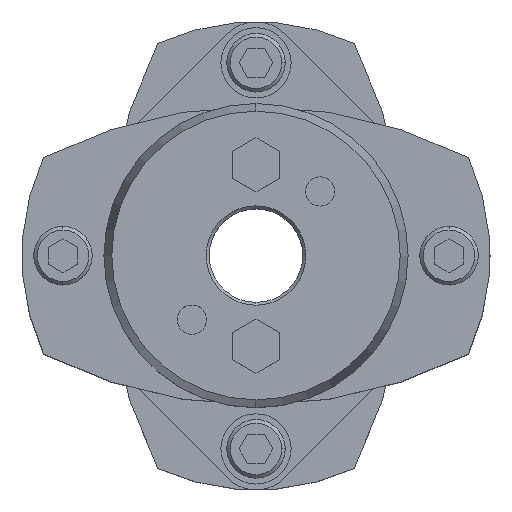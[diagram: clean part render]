
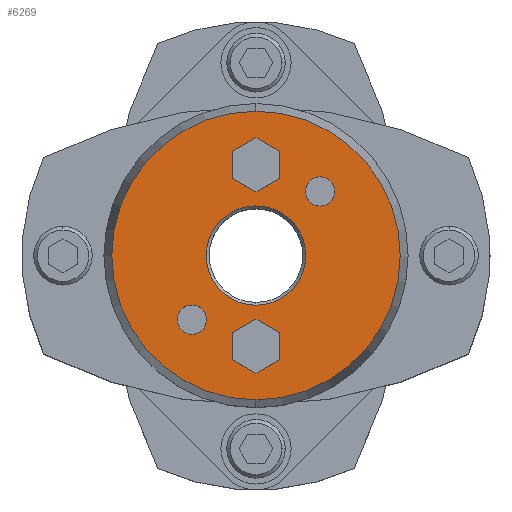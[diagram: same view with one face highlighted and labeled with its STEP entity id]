
A CAD part, top view. The second image highlights one B-rep face of the part: STEP entity #6269.
In plain terms, the highlighted planar face has unit normal (0, 0, 1).
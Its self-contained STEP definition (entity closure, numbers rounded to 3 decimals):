
#1677=CARTESIAN_POINT('',(0.,8.5,45.25));
#1678=VERTEX_POINT('',#1677);
#1694=CARTESIAN_POINT('',(0.,-8.5,45.25));
#1695=VERTEX_POINT('',#1694);
#1702=CARTESIAN_POINT('',(0.,0.,45.25));
#1703=DIRECTION('',(0.0,0.0,1.0));
#1704=DIRECTION('',(0.0,1.0,0.0));
#1705=AXIS2_PLACEMENT_3D('',#1702,#1703,#1704);
#1706=CIRCLE('',#1705,8.5);
#1707=EDGE_CURVE('',#1695,#1678,#1706,.T.);
#1865=CARTESIAN_POINT('',(0.,-24.66,45.25));
#1866=VERTEX_POINT('',#1865);
#1873=CARTESIAN_POINT('',(0.,24.66,45.25));
#1874=VERTEX_POINT('',#1873);
#1875=CARTESIAN_POINT('',(0.,0.,45.25));
#1876=DIRECTION('',(0.0,0.0,-1.0));
#1877=DIRECTION('',(0.0,-1.0,0.0));
#1878=AXIS2_PLACEMENT_3D('',#1875,#1876,#1877);
#1879=CIRCLE('',#1878,24.66);
#1880=EDGE_CURVE('',#1866,#1874,#1879,.T.);
#1975=CARTESIAN_POINT('',(10.96,13.46,45.25));
#1976=VERTEX_POINT('',#1975);
#1992=CARTESIAN_POINT('',(10.96,8.46,45.25));
#1993=VERTEX_POINT('',#1992);
#2000=CARTESIAN_POINT('',(10.96,10.96,45.25));
#2001=DIRECTION('',(0.0,0.0,-1.0));
#2002=DIRECTION('',(0.0,1.0,0.0));
#2003=AXIS2_PLACEMENT_3D('',#2000,#2001,#2002);
#2004=CIRCLE('',#2003,2.5);
#2005=EDGE_CURVE('',#1976,#1993,#2004,.T.);
#2017=CARTESIAN_POINT('',(-10.96,-8.46,45.25));
#2018=VERTEX_POINT('',#2017);
#2034=CARTESIAN_POINT('',(-10.96,-13.46,45.25));
#2035=VERTEX_POINT('',#2034);
#2042=CARTESIAN_POINT('',(-10.96,-10.96,45.25));
#2043=DIRECTION('',(0.0,0.0,-1.0));
#2044=DIRECTION('',(0.0,1.0,0.0));
#2045=AXIS2_PLACEMENT_3D('',#2042,#2043,#2044);
#2046=CIRCLE('',#2045,2.5);
#2047=EDGE_CURVE('',#2018,#2035,#2046,.T.);
#5513=CARTESIAN_POINT('',(0.,-10.881,45.25));
#5514=VERTEX_POINT('',#5513);
#5521=CARTESIAN_POINT('',(-4.,-13.191,45.25));
#5522=VERTEX_POINT('',#5521);
#5523=CARTESIAN_POINT('',(-4.,-13.191,45.25));
#5524=DIRECTION('',(0.866,0.5,0.0));
#5525=VECTOR('',#5524,4.619);
#5526=LINE('',#5523,#5525);
#5527=EDGE_CURVE('',#5522,#5514,#5526,.T.);
#5551=CARTESIAN_POINT('',(4.,-13.191,45.25));
#5552=VERTEX_POINT('',#5551);
#5559=CARTESIAN_POINT('',(0.,-10.881,45.25));
#5560=DIRECTION('',(0.866,-0.5,0.0));
#5561=VECTOR('',#5560,4.619);
#5562=LINE('',#5559,#5561);
#5563=EDGE_CURVE('',#5514,#5552,#5562,.T.);
#5582=CARTESIAN_POINT('',(4.,-17.809,45.25));
#5583=VERTEX_POINT('',#5582);
#5590=CARTESIAN_POINT('',(4.,-13.191,45.25));
#5591=DIRECTION('',(0.0,-1.0,0.0));
#5592=VECTOR('',#5591,4.619);
#5593=LINE('',#5590,#5592);
#5594=EDGE_CURVE('',#5552,#5583,#5593,.T.);
#5613=CARTESIAN_POINT('',(0.,-20.119,45.25));
#5614=VERTEX_POINT('',#5613);
#5621=CARTESIAN_POINT('',(4.,-17.809,45.25));
#5622=DIRECTION('',(-0.866,-0.5,0.0));
#5623=VECTOR('',#5622,4.619);
#5624=LINE('',#5621,#5623);
#5625=EDGE_CURVE('',#5583,#5614,#5624,.T.);
#5644=CARTESIAN_POINT('',(-4.,-17.809,45.25));
#5645=VERTEX_POINT('',#5644);
#5652=CARTESIAN_POINT('',(0.,-20.119,45.25));
#5653=DIRECTION('',(-0.866,0.5,0.0));
#5654=VECTOR('',#5653,4.619);
#5655=LINE('',#5652,#5654);
#5656=EDGE_CURVE('',#5614,#5645,#5655,.T.);
#5674=CARTESIAN_POINT('',(-4.,-17.809,45.25));
#5675=DIRECTION('',(0.0,1.0,0.0));
#5676=VECTOR('',#5675,4.619);
#5677=LINE('',#5674,#5676);
#5678=EDGE_CURVE('',#5645,#5522,#5677,.T.);
#5713=CARTESIAN_POINT('',(0.,20.119,45.25));
#5714=VERTEX_POINT('',#5713);
#5721=CARTESIAN_POINT('',(-4.,17.809,45.25));
#5722=VERTEX_POINT('',#5721);
#5723=CARTESIAN_POINT('',(-4.,17.809,45.25));
#5724=DIRECTION('',(0.866,0.5,0.0));
#5725=VECTOR('',#5724,4.619);
#5726=LINE('',#5723,#5725);
#5727=EDGE_CURVE('',#5722,#5714,#5726,.T.);
#5751=CARTESIAN_POINT('',(4.,17.809,45.25));
#5752=VERTEX_POINT('',#5751);
#5759=CARTESIAN_POINT('',(0.,20.119,45.25));
#5760=DIRECTION('',(0.866,-0.5,0.0));
#5761=VECTOR('',#5760,4.619);
#5762=LINE('',#5759,#5761);
#5763=EDGE_CURVE('',#5714,#5752,#5762,.T.);
#5782=CARTESIAN_POINT('',(4.,13.191,45.25));
#5783=VERTEX_POINT('',#5782);
#5790=CARTESIAN_POINT('',(4.,17.809,45.25));
#5791=DIRECTION('',(0.0,-1.0,0.0));
#5792=VECTOR('',#5791,4.619);
#5793=LINE('',#5790,#5792);
#5794=EDGE_CURVE('',#5752,#5783,#5793,.T.);
#5813=CARTESIAN_POINT('',(0.,10.881,45.25));
#5814=VERTEX_POINT('',#5813);
#5821=CARTESIAN_POINT('',(4.,13.191,45.25));
#5822=DIRECTION('',(-0.866,-0.5,0.0));
#5823=VECTOR('',#5822,4.619);
#5824=LINE('',#5821,#5823);
#5825=EDGE_CURVE('',#5783,#5814,#5824,.T.);
#5844=CARTESIAN_POINT('',(-4.,13.191,45.25));
#5845=VERTEX_POINT('',#5844);
#5852=CARTESIAN_POINT('',(0.,10.881,45.25));
#5853=DIRECTION('',(-0.866,0.5,0.0));
#5854=VECTOR('',#5853,4.619);
#5855=LINE('',#5852,#5854);
#5856=EDGE_CURVE('',#5814,#5845,#5855,.T.);
#5874=CARTESIAN_POINT('',(-4.,13.191,45.25));
#5875=DIRECTION('',(0.0,1.0,0.0));
#5876=VECTOR('',#5875,4.619);
#5877=LINE('',#5874,#5876);
#5878=EDGE_CURVE('',#5845,#5722,#5877,.T.);
#5904=CARTESIAN_POINT('',(-10.96,-10.96,45.25));
#5905=DIRECTION('',(0.0,0.0,-1.0));
#5906=DIRECTION('',(0.0,1.0,0.0));
#5907=AXIS2_PLACEMENT_3D('',#5904,#5905,#5906);
#5908=CIRCLE('',#5907,2.5);
#5909=EDGE_CURVE('',#2035,#2018,#5908,.T.);
#5938=CARTESIAN_POINT('',(10.96,10.96,45.25));
#5939=DIRECTION('',(0.0,0.0,-1.0));
#5940=DIRECTION('',(0.0,1.0,0.0));
#5941=AXIS2_PLACEMENT_3D('',#5938,#5939,#5940);
#5942=CIRCLE('',#5941,2.5);
#5943=EDGE_CURVE('',#1993,#1976,#5942,.T.);
#6216=CARTESIAN_POINT('',(0.,0.,45.25));
#6217=DIRECTION('',(0.0,0.0,-1.0));
#6218=DIRECTION('',(0.0,-1.0,0.0));
#6219=AXIS2_PLACEMENT_3D('',#6216,#6217,#6218);
#6220=CIRCLE('',#6219,24.66);
#6221=EDGE_CURVE('',#1874,#1866,#6220,.T.);
#6226=CARTESIAN_POINT('',(0.,2.364,45.25));
#6227=DIRECTION('',(0.0,0.0,1.0));
#6228=DIRECTION('',(0.0,1.0,0.0));
#6229=AXIS2_PLACEMENT_3D('',#6226,#6227,#6228);
#6230=PLANE('',#6229);
#6231=ORIENTED_EDGE('',*,*,#6221,.F.);
#6232=ORIENTED_EDGE('',*,*,#1880,.F.);
#6233=EDGE_LOOP('',(#6231,#6232));
#6234=FACE_OUTER_BOUND('',#6233,.T.);
#6235=ORIENTED_EDGE('',*,*,#5527,.T.);
#6236=ORIENTED_EDGE('',*,*,#5563,.T.);
#6237=ORIENTED_EDGE('',*,*,#5594,.T.);
#6238=ORIENTED_EDGE('',*,*,#5625,.T.);
#6239=ORIENTED_EDGE('',*,*,#5656,.T.);
#6240=ORIENTED_EDGE('',*,*,#5678,.T.);
#6241=EDGE_LOOP('',(#6235,#6236,#6237,#6238,#6239,#6240));
#6242=FACE_BOUND('',#6241,.T.);
#6243=ORIENTED_EDGE('',*,*,#5727,.T.);
#6244=ORIENTED_EDGE('',*,*,#5763,.T.);
#6245=ORIENTED_EDGE('',*,*,#5794,.T.);
#6246=ORIENTED_EDGE('',*,*,#5825,.T.);
#6247=ORIENTED_EDGE('',*,*,#5856,.T.);
#6248=ORIENTED_EDGE('',*,*,#5878,.T.);
#6249=EDGE_LOOP('',(#6243,#6244,#6245,#6246,#6247,#6248));
#6250=FACE_BOUND('',#6249,.T.);
#6251=ORIENTED_EDGE('',*,*,#2047,.T.);
#6252=ORIENTED_EDGE('',*,*,#5909,.T.);
#6253=EDGE_LOOP('',(#6251,#6252));
#6254=FACE_BOUND('',#6253,.T.);
#6255=ORIENTED_EDGE('',*,*,#2005,.T.);
#6256=ORIENTED_EDGE('',*,*,#5943,.T.);
#6257=EDGE_LOOP('',(#6255,#6256));
#6258=FACE_BOUND('',#6257,.T.);
#6259=ORIENTED_EDGE('',*,*,#1707,.F.);
#6260=CARTESIAN_POINT('',(0.,0.,45.25));
#6261=DIRECTION('',(0.0,0.0,1.0));
#6262=DIRECTION('',(0.0,1.0,0.0));
#6263=AXIS2_PLACEMENT_3D('',#6260,#6261,#6262);
#6264=CIRCLE('',#6263,8.5);
#6265=EDGE_CURVE('',#1678,#1695,#6264,.T.);
#6266=ORIENTED_EDGE('',*,*,#6265,.F.);
#6267=EDGE_LOOP('',(#6259,#6266));
#6268=FACE_BOUND('',#6267,.T.);
#6269=ADVANCED_FACE('',(#6234,#6242,#6250,#6254,#6258,#6268),#6230,.T.);
